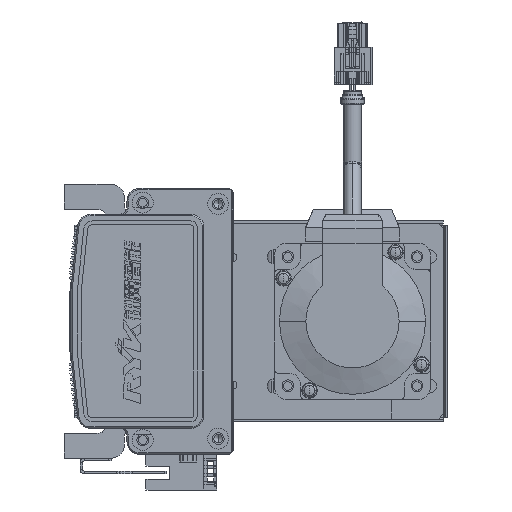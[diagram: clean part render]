
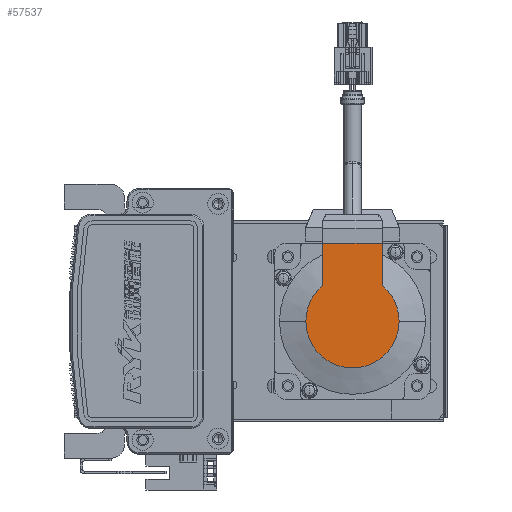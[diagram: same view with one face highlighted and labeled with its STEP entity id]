
A CAD part, left-side view. The second image highlights one B-rep face of the part: STEP entity #57537.
In plain terms, the highlighted planar face has unit normal (-1, 0, 0).
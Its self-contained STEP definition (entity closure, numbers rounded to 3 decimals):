
#12467 = FACE_OUTER_BOUND ( 'NONE', #61273, .T. ) ;
#13572 = DIRECTION ( 'NONE',  ( 0., 0., 1. ) ) ;
#13606 = CARTESIAN_POINT ( 'NONE',  ( -99., -8.941, 0. ) ) ;
#13611 = DIRECTION ( 'NONE',  ( -1., 0., 0. ) ) ;
#13631 = PLANE ( 'NONE',  #86726 ) ;
#13678 = CARTESIAN_POINT ( 'NONE',  ( -99., 0., 17.881 ) ) ;
#13745 = CARTESIAN_POINT ( 'NONE',  ( -99., 13.735, 11.45 ) ) ;
#13767 = CARTESIAN_POINT ( 'NONE',  ( -99., 0., -17.881 ) ) ;
#19481 = CIRCLE ( 'NONE', #111961, 17.881 ) ;
#19502 = CIRCLE ( 'NONE', #30398, 17.881 ) ;
#30398 = AXIS2_PLACEMENT_3D ( 'NONE', #90599, #90603, #90600 ) ;
#30966 = AXIS2_PLACEMENT_3D ( 'NONE', #82539, #82503, #82543 ) ;
#31072 = EDGE_CURVE ( 'NONE', #97940, #102582, #19481, .T. ) ;
#31102 = EDGE_CURVE ( 'NONE', #102389, #97940, #19502, .T. ) ;
#32122 = EDGE_CURVE ( 'NONE', #39887, #102389, #88697, .T. ) ;
#32307 = EDGE_CURVE ( 'NONE', #39909, #39887, #88785, .T. ) ;
#32334 = EDGE_CURVE ( 'NONE', #39919, #102582, #88805, .T. ) ;
#32459 = EDGE_CURVE ( 'NONE', #39909, #39919, #88993, .T. ) ;
#35358 = ORIENTED_EDGE ( 'NONE', *, *, #32459, .F. ) ;
#35382 = ORIENTED_EDGE ( 'NONE', *, *, #31072, .T. ) ;
#35414 = ORIENTED_EDGE ( 'NONE', *, *, #32122, .T. ) ;
#35416 = ORIENTED_EDGE ( 'NONE', *, *, #31102, .T. ) ;
#35435 = ORIENTED_EDGE ( 'NONE', *, *, #32334, .F. ) ;
#35450 = ORIENTED_EDGE ( 'NONE', *, *, #32307, .T. ) ;
#39887 = VERTEX_POINT ( 'NONE', #56775 ) ;
#39909 = VERTEX_POINT ( 'NONE', #56892 ) ;
#39919 = VERTEX_POINT ( 'NONE', #56909 ) ;
#56775 = CARTESIAN_POINT ( 'NONE',  ( -99., 13.735, -11.45 ) ) ;
#56892 = CARTESIAN_POINT ( 'NONE',  ( -99., 30., -11.45 ) ) ;
#56909 = CARTESIAN_POINT ( 'NONE',  ( -99., 30., 11.45 ) ) ;
#57537 = ADVANCED_FACE ( 'NONE', ( #12467 ), #13631, .T. ) ;
#61273 = EDGE_LOOP ( 'NONE', ( #35450, #35414, #35416, #35382, #35435, #35358 ) ) ;
#82039 = CARTESIAN_POINT ( 'NONE',  ( -99., 30., 25. ) ) ;
#82061 = DIRECTION ( 'NONE',  ( 0., 0., 1. ) ) ;
#82503 = DIRECTION ( 'NONE',  ( -1., 0., 0. ) ) ;
#82539 = CARTESIAN_POINT ( 'NONE',  ( -99., 0., 0. ) ) ;
#82543 = DIRECTION ( 'NONE',  ( 0., 0., -1. ) ) ;
#82780 = DIRECTION ( 'NONE',  ( 0., -1., 0. ) ) ;
#82792 = CARTESIAN_POINT ( 'NONE',  ( -99., -8.941, -11.45 ) ) ;
#86726 = AXIS2_PLACEMENT_3D ( 'NONE', #13606, #13611, #13572 ) ;
#86755 = DIRECTION ( 'NONE',  ( 0., -1., 0. ) ) ;
#88697 = CIRCLE ( 'NONE', #30966, 17.881 ) ;
#88785 = LINE ( 'NONE', #82792, #88789 ) ;
#88789 = VECTOR ( 'NONE', #82780, 1000. ) ;
#88805 = LINE ( 'NONE', #90447, #88977 ) ;
#88977 = VECTOR ( 'NONE', #86755, 1000. ) ;
#88993 = LINE ( 'NONE', #82039, #89082 ) ;
#89082 = VECTOR ( 'NONE', #82061, 1000. ) ;
#90447 = CARTESIAN_POINT ( 'NONE',  ( -99., 0., 11.45 ) ) ;
#90536 = CARTESIAN_POINT ( 'NONE',  ( -99., 0., 0. ) ) ;
#90537 = DIRECTION ( 'NONE',  ( -1., 0., 0. ) ) ;
#90539 = DIRECTION ( 'NONE',  ( 0., 0., -1. ) ) ;
#90599 = CARTESIAN_POINT ( 'NONE',  ( -99., 0., 0. ) ) ;
#90600 = DIRECTION ( 'NONE',  ( 0., 0., -1. ) ) ;
#90603 = DIRECTION ( 'NONE',  ( -1., 0., 0. ) ) ;
#97940 = VERTEX_POINT ( 'NONE', #13678 ) ;
#102389 = VERTEX_POINT ( 'NONE', #13767 ) ;
#102582 = VERTEX_POINT ( 'NONE', #13745 ) ;
#111961 = AXIS2_PLACEMENT_3D ( 'NONE', #90536, #90537, #90539 ) ;
